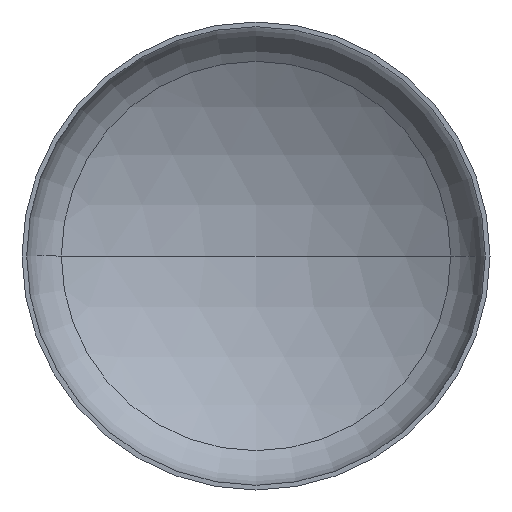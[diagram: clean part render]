
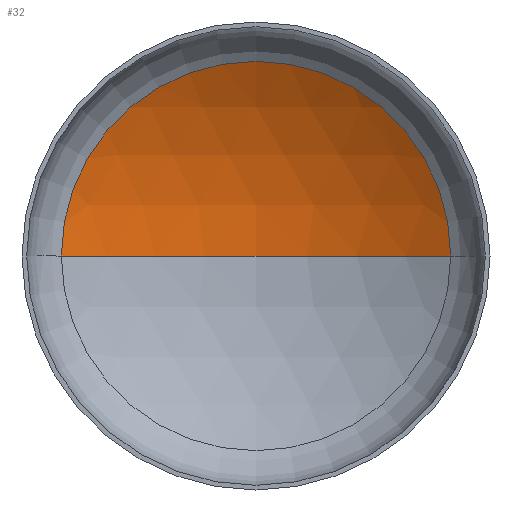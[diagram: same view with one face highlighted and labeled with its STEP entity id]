
A CAD part, front view. The second image highlights one B-rep face of the part: STEP entity #32.
In plain terms, the highlighted spherical face has radius 4800 mm.
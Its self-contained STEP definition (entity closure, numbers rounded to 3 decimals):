
#24 = ORIENTED_EDGE ( 'NONE', *, *, #171, .T. ) ;
#32 = ADVANCED_FACE ( 'NONE', ( #73 ), #170, .F. ) ;
#36 = ORIENTED_EDGE ( 'NONE', *, *, #173, .T. ) ;
#38 = VERTEX_POINT ( 'NONE', #355 ) ;
#73 = FACE_OUTER_BOUND ( 'NONE', #141, .T. ) ;
#83 = AXIS2_PLACEMENT_3D ( 'NONE', #183, #314, #138 ) ;
#89 = AXIS2_PLACEMENT_3D ( 'NONE', #223, #215, #212 ) ;
#95 = AXIS2_PLACEMENT_3D ( 'NONE', #300, #295, #293 ) ;
#103 = ORIENTED_EDGE ( 'NONE', *, *, #181, .F. ) ;
#111 = VERTEX_POINT ( 'NONE', #250 ) ;
#137 = AXIS2_PLACEMENT_3D ( 'NONE', #259, #283, #288 ) ;
#138 = DIRECTION ( 'NONE',  ( 1., 0., 0. ) ) ;
#141 = EDGE_LOOP ( 'NONE', ( #103, #36, #24 ) ) ;
#170 = SPHERICAL_SURFACE ( 'NONE', #137, 4800. ) ;
#171 = EDGE_CURVE ( 'NONE', #209, #38, #369, .T. ) ;
#173 = EDGE_CURVE ( 'NONE', #111, #209, #378, .T. ) ;
#181 = EDGE_CURVE ( 'NONE', #111, #38, #249, .T. ) ;
#183 = CARTESIAN_POINT ( 'NONE',  ( 0., -3189.894, 0. ) ) ;
#209 = VERTEX_POINT ( 'NONE', #268 ) ;
#212 = DIRECTION ( 'NONE',  ( -1., 0., 0. ) ) ;
#215 = DIRECTION ( 'NONE',  ( 0., 0., -1. ) ) ;
#223 = CARTESIAN_POINT ( 'NONE',  ( 0., -3189.894, 0. ) ) ;
#249 = CIRCLE ( 'NONE', #83, 4800. ) ;
#250 = CARTESIAN_POINT ( 'NONE',  ( 0., 1610.106, 0. ) ) ;
#259 = CARTESIAN_POINT ( 'NONE',  ( 0., -3189.894, 0. ) ) ;
#268 = CARTESIAN_POINT ( 'NONE',  ( 2496., 910.104, 0. ) ) ;
#283 = DIRECTION ( 'NONE',  ( 0., 0., -1. ) ) ;
#288 = DIRECTION ( 'NONE',  ( -1., 0., 0. ) ) ;
#293 = DIRECTION ( 'NONE',  ( 1., 0., 0. ) ) ;
#295 = DIRECTION ( 'NONE',  ( 0., -1., 0. ) ) ;
#300 = CARTESIAN_POINT ( 'NONE',  ( 0., 910.104, 0. ) ) ;
#314 = DIRECTION ( 'NONE',  ( 0., 0., 1. ) ) ;
#355 = CARTESIAN_POINT ( 'NONE',  ( -2496., 910.104, 0. ) ) ;
#369 = CIRCLE ( 'NONE', #95, 2496. ) ;
#378 = CIRCLE ( 'NONE', #89, 4800. ) ;
